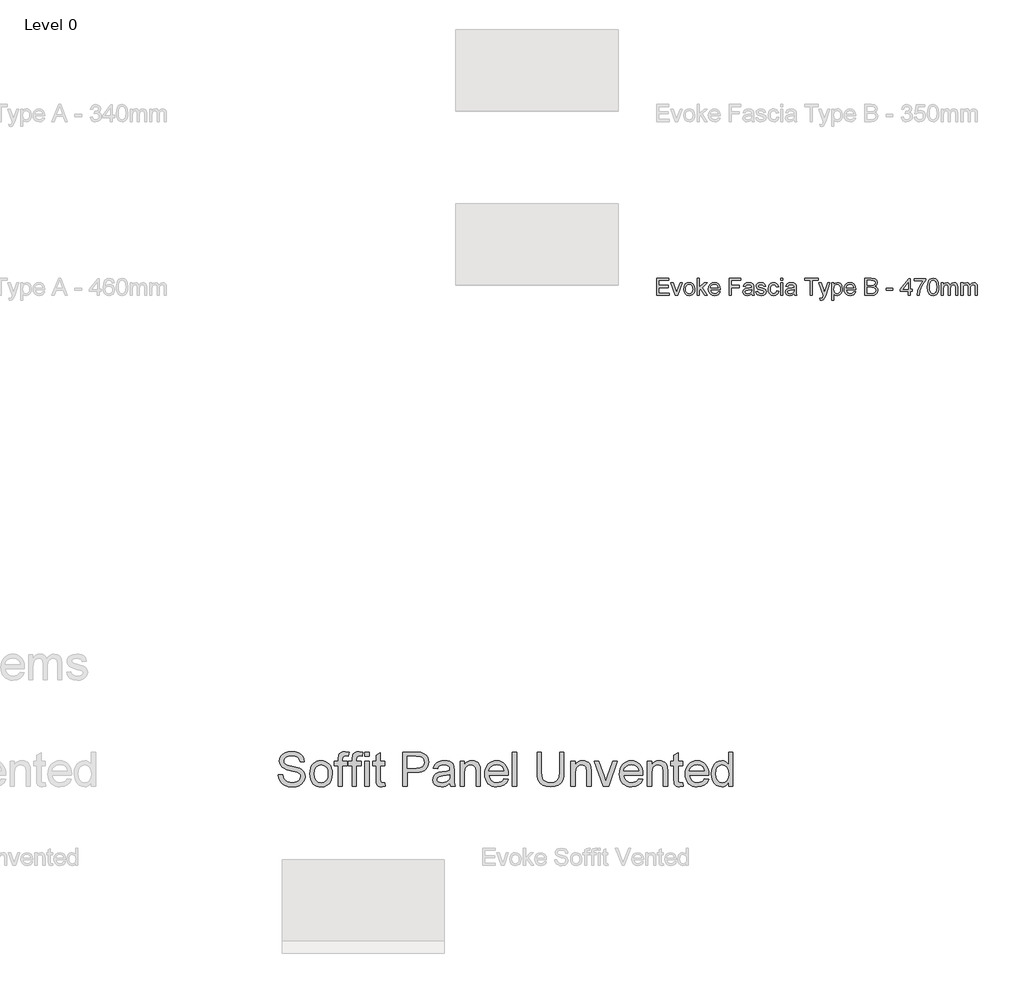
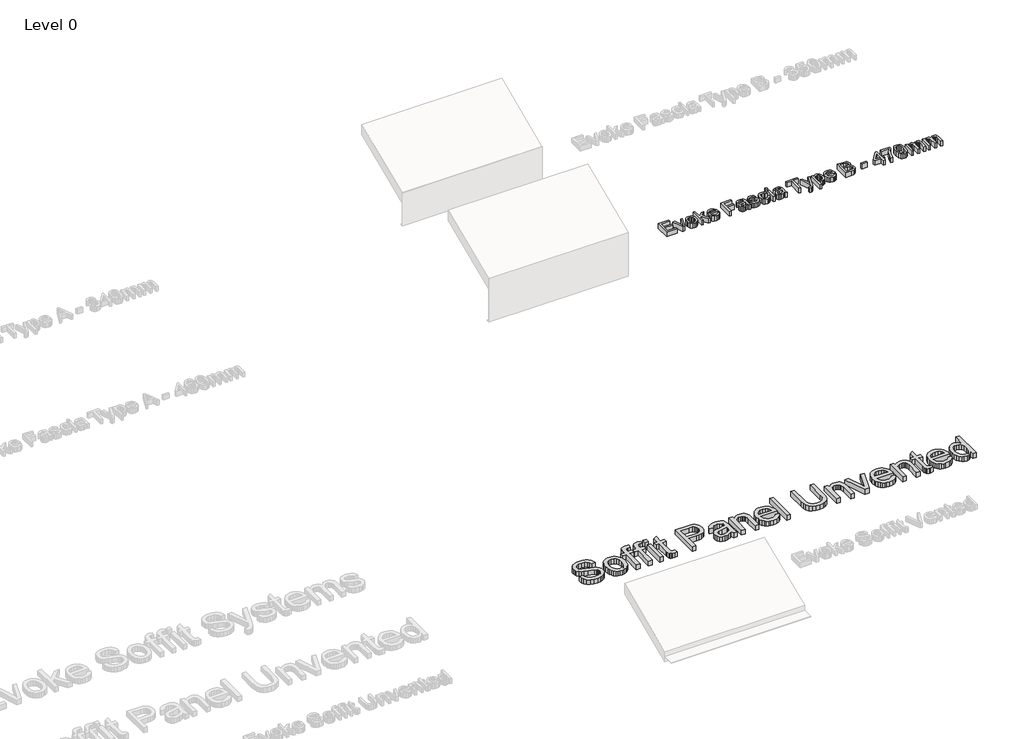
# One storey, part 4 of 13: 2 proxies.
"""IFC4 building model written with IfcOpenShell, lengths in millimetres."""

from ifc_helpers import new_model, si_unit, origin, origin_with_axes, place, context, project, spatial, polyline, outline, extrude, element, save

model = new_model("IFC4")

# Units and contexts
model_context = context("Model", 3, world=origin())
ifc_project = project(units=[si_unit("LENGTHUNIT", "METRE", prefix="MILLI")], contexts=[model_context])

# Site, building, storey
site = spatial("IfcSite", under=ifc_project)
building = spatial("IfcBuilding", under=site)
storey = spatial("IfcBuildingStorey", under=building, Name="Level 0", Elevation=0.0)

# Proxies
placement = place(None, origin())
element("IfcBuildingElementProxy", 1, Name="150mm Arial", ObjectType="150mm Arial", at=placement, inside=storey, context=model_context, shape_type="SweptSolid", body=[
    extrude(outline(polyline([(5568.7201043, -139.3317689), (5568.7201043, 8.3605388), (5674.8739504, 8.3605388), (5674.8739504, -10.1009997), (5587.1816427, -10.1009997), (5587.1816427, -53.9471535), (5670.2585658, -53.9471535), (5670.2585658, -72.408692), (5587.1816427, -72.408692), (5587.1816427, -120.8702305), (5677.1816427, -120.8702305), (5677.1816427, -139.3317689), (5568.7201043, -139.3317689)])), origin_with_axes(), (0.0, 0.0, 1.0), 50.0),
    extrude(outline(polyline([(5729.176835, -139.3317689), (5691.0277966, -30.8702305), (5710.5710658, -30.8702305), (5733.6840466, -95.846192), (5740.6431812, -117.6971535), (5747.458085, -97.0721535), (5770.7152966, -30.8702305), (5790.2585658, -30.8702305), (5752.5782774, -139.3317689), (5729.176835, -139.3317689)])), origin_with_axes(), (0.0, 0.0, 1.0), 50.0),
    extrude(outline(polyline([(5801.7970274, -85.1009997), (5805.7904168, -58.9501584), (5817.770585, -40.5697497), (5832.5722677, -31.564341), (5850.2946235, -28.5625382), (5869.6891548, -32.2178867), (5885.1804408, -43.1839324), (5895.3351884, -60.5952906), (5898.7201043, -83.5865766), (5897.22371, -102.237418), (5892.7345274, -116.4351343), (5885.3832653, -127.0676463), (5875.3006331, -135.0228747), (5863.3249721, -139.9853146), (5850.2946235, -141.6394612), (5830.6657173, -137.9976343), (5815.19246, -127.0721535), (5805.1458855, -109.2957112), (5801.7970274, -85.1009997)]), holes=[polyline([(5820.2585658, -85.064942), (5822.3949841, -101.7731752), (5828.8042389, -113.6767209), (5838.4496716, -120.8026223), (5850.2946235, -123.1779228), (5862.0854889, -120.7891007), (5871.7128927, -113.6226343), (5878.1221475, -101.5613362), (5880.2585658, -84.4880189), (5878.1086259, -68.2665646), (5871.6588062, -56.5252785), (5862.0178807, -49.3993771), (5850.2946235, -47.0240766), (5838.4496716, -49.3903627), (5828.8042389, -56.4892209), (5822.3949841, -68.3657233), (5820.2585658, -85.064942)])]), origin_with_axes(), (0.0, 0.0, 1.0), 50.0),
    extrude(outline(polyline([(5919.489335, -139.3317689), (5919.489335, 8.3605388), (5937.9508735, 8.3605388), (5937.9508735, -71.002442), (5979.3451043, -30.8702305), (6004.8739504, -30.8702305), (5962.974912, -71.5072497), (6007.1816427, -139.3317689), (5985.6191427, -139.3317689), (5949.7417389, -84.3437882), (5937.9508735, -95.7740766), (5937.9508735, -139.3317689), (5919.489335, -139.3317689)])), origin_with_axes(), (0.0, 0.0, 1.0), 50.0),
    extrude(outline(polyline([(6099.2729889, -107.0240766), (6117.3739504, -109.3317689), (6110.8520153, -122.970591), (6100.4448639, -133.1659035), (6086.3868711, -139.5210718), (6068.912412, -141.6394612), (6047.2507533, -137.9841127), (6030.583085, -127.018067), (6019.9550802, -109.4534636), (6016.412412, -86.002442), (6019.9911379, -61.7626584), (6030.7273158, -43.6346535), (6047.1696235, -32.330567), (6067.8667389, -28.5625382), (6087.919323, -32.3215526), (6103.94246, -43.5985959), (6114.4487701, -61.690543), (6117.9508735, -85.8942689), (6117.8427004, -90.8702305), (6034.8739504, -90.8702305), (6038.0695634, -104.689341), (6045.4929408, -114.8485959), (6056.2065826, -121.095591), (6069.2729889, -123.1779228), (6087.3739504, -119.3197497), (6099.2729889, -107.0240766)]), holes=[polyline([(6034.8739504, -72.408692), (6099.489335, -72.408692), (6096.9923399, -62.6550862), (6092.0975081, -55.6779228), (6081.334287, -49.1875382), (6067.7946235, -47.0240766), (6055.3502124, -48.7503386), (6045.0602485, -53.9291247), (6037.9073038, -62.0015406), (6034.8739504, -72.408692)])]), origin_with_axes(), (0.0, 0.0, 1.0), 50.0),
    extrude(outline(polyline([(6196.412412, -139.3317689), (6196.412412, 8.3605388), (6295.6431812, 8.3605388), (6295.6431812, -10.1009997), (6214.8739504, -10.1009997), (6214.8739504, -53.9471535), (6284.1047197, -53.9471535), (6284.1047197, -72.408692), (6214.8739504, -72.408692), (6214.8739504, -139.3317689), (6196.412412, -139.3317689)])), origin_with_axes(), (0.0, 0.0, 1.0), 50.0),
    extrude(outline(polyline([(6387.9508735, -125.4856151), (6370.0482293, -137.9976343), (6350.270585, -141.6394612), (6334.8423999, -139.4489564), (6323.4616908, -132.877442), (6316.4439624, -122.8984757), (6314.1047197, -110.4856151), (6317.6383735, -95.8822497), (6326.9232293, -85.2812882), (6339.849912, -79.2235959), (6355.8234697, -76.4471535), (6387.8427004, -70.1009997), (6387.9508735, -65.9904228), (6386.6798399, -57.7512401), (6382.8667389, -52.3606151), (6374.3390947, -48.3582112), (6362.458085, -47.0240766), (6343.7802004, -50.5757593), (6334.8739504, -63.1779228), (6316.412412, -60.8702305), (6324.3991908, -42.8413843), (6340.4809216, -32.2764805), (6364.8378927, -28.5625382), (6387.2116908, -31.8437882), (6399.849912, -40.0829709), (6405.5109697, -52.6130189), (6406.412412, -68.7668651), (6406.412412, -91.7356151), (6407.349912, -123.8089324), (6411.0277966, -139.3317689), (6392.5662581, -139.3317689), (6387.9508735, -125.4856151)]), holes=[polyline([(6387.9508735, -88.5625382), (6358.1672197, -94.2235959), (6342.2838062, -97.2163843), (6335.0902966, -102.0841728), (6332.5662581, -109.1875382), (6338.0650562, -119.1755189), (6354.2008735, -123.1779228), (6372.8787581, -118.7608555), (6384.9220274, -108.0697497), (6387.8427004, -93.7909035), (6387.9508735, -88.5625382)])]), origin_with_axes(), (0.0, 0.0, 1.0), 50.0),
    extrude(outline(polyline([(6424.8739504, -107.0240766), (6443.3354889, -104.7163843), (6446.2471475, -112.6130189), (6451.881162, -118.4183074), (6471.4604889, -123.1779228), (6490.2826043, -118.814942), (6496.412412, -108.5745574), (6490.2465466, -100.2812882), (6471.2441427, -95.0168651), (6443.443662, -85.9844132), (6431.3102485, -75.4375382), (6427.1816427, -60.5457112), (6430.4989504, -46.7897016), (6439.5494312, -36.2788843), (6451.28621, -30.8161439), (6467.1696235, -28.5625382), (6489.6335658, -32.1863362), (6503.912412, -41.9940285), (6510.2585658, -58.5625382), (6491.7970274, -60.8702305), (6484.8559216, -50.6839324), (6468.6119312, -47.0240766), (6450.943662, -50.5216728), (6445.6431812, -58.6707112), (6447.8427004, -64.0433074), (6454.7297197, -68.1178266), (6470.631162, -72.0481151), (6497.7285177, -80.7380189), (6510.3126524, -90.5817689), (6514.8739504, -106.627442), (6509.5193831, -124.2957112), (6494.068662, -137.1142209), (6471.208085, -141.6394612), (6452.5933014, -139.4579709), (6439.0085658, -132.9134997), (6429.9400562, -122.0781632), (6424.8739504, -107.0240766)])), origin_with_axes(), (0.0, 0.0, 1.0), 50.0),
    extrude(outline(polyline([(6604.8739504, -100.1009997), (6623.3354889, -102.408692), (6618.1882533, -118.8284636), (6608.5157774, -131.236817), (6595.2285177, -139.0388002), (6579.2369312, -141.6394612), (6559.5990105, -138.0111559), (6544.2429408, -127.1262401), (6534.3315826, -109.4624781), (6531.0277966, -85.4976343), (6536.6708254, -54.830567), (6543.7922197, -43.3326704), (6553.8703447, -35.1250382), (6565.9271355, -30.2031632), (6578.9845274, -28.5625382), (6594.5839865, -30.8161439), (6607.0554408, -37.5769612), (6616.0022557, -48.4844132), (6621.0277966, -63.1779228), (6602.5662581, -65.4856151), (6594.0025562, -51.6574901), (6579.1287581, -47.0240766), (6567.1981692, -49.3047257), (6557.7285177, -56.1466728), (6551.5491307, -67.9195093), (6549.489335, -84.9928266), (6551.5040586, -102.2960117), (6557.5482293, -114.1094132), (6566.8466067, -120.9107954), (6578.6239504, -123.1779228), (6588.1837461, -121.7626584), (6596.021787, -117.5168651), (6601.7234096, -110.3323699), (6604.8739504, -100.1009997)])), origin_with_axes(), (0.0, 0.0, 1.0), 50.0),
    extrude(outline(polyline([(6639.489335, -10.1009997), (6639.489335, 8.3605388), (6657.9508735, 8.3605388), (6657.9508735, -10.1009997), (6639.489335, -10.1009997)])), origin_with_axes(), (0.0, 0.0, 1.0), 50.0),
    extrude(outline(polyline([(6639.489335, -139.3317689), (6639.489335, -30.8702305), (6657.9508735, -30.8702305), (6657.9508735, -139.3317689), (6639.489335, -139.3317689)])), origin_with_axes(), (0.0, 0.0, 1.0), 50.0),
    extrude(outline(polyline([(6754.8739504, -125.4856151), (6736.9713062, -137.9976343), (6717.193662, -141.6394612), (6701.7654769, -139.4489564), (6690.3847677, -132.877442), (6683.3670394, -122.8984757), (6681.0277966, -110.4856151), (6684.5614504, -95.8822497), (6693.8463062, -85.2812882), (6706.7729889, -79.2235959), (6722.7465466, -76.4471535), (6754.7657774, -70.1009997), (6754.8739504, -65.9904228), (6753.6029168, -57.7512401), (6749.7898158, -52.3606151), (6741.2621716, -48.3582112), (6729.381162, -47.0240766), (6710.7032774, -50.5757593), (6701.7970274, -63.1779228), (6683.3354889, -60.8702305), (6691.3222677, -42.8413843), (6707.4039985, -32.2764805), (6731.7609697, -28.5625382), (6754.1347677, -31.8437882), (6766.7729889, -40.0829709), (6772.4340466, -52.6130189), (6773.3354889, -68.7668651), (6773.3354889, -91.7356151), (6774.2729889, -123.8089324), (6777.9508735, -139.3317689), (6759.489335, -139.3317689), (6754.8739504, -125.4856151)]), holes=[polyline([(6754.8739504, -88.5625382), (6725.0902966, -94.2235959), (6709.2068831, -97.2163843), (6702.0133735, -102.0841728), (6699.489335, -109.1875382), (6704.9881331, -119.1755189), (6721.1239504, -123.1779228), (6739.801835, -118.7608555), (6751.8451043, -108.0697497), (6754.7657774, -93.7909035), (6754.8739504, -88.5625382)])]), origin_with_axes(), (0.0, 0.0, 1.0), 50.0),
    extrude(outline(polyline([(6895.6431812, -139.3317689), (6895.6431812, -10.1009997), (6847.1816427, -10.1009997), (6847.1816427, 8.3605388), (6962.5662581, 8.3605388), (6962.5662581, -10.1009997), (6914.1047197, -10.1009997), (6914.1047197, -139.3317689), (6895.6431812, -139.3317689)])), origin_with_axes(), (0.0, 0.0, 1.0), 50.0),
    extrude(outline(polyline([(6981.0277966, -180.8702305), (6978.7201043, -163.0937882), (6988.0951043, -164.7163843), (6996.8571235, -162.6791247), (7002.2297197, -157.0000382), (7007.2777966, -143.4062882), (7008.7201043, -138.9351343), (6969.489335, -30.8702305), (6988.9604889, -30.8702305), (7009.7657774, -91.0865766), (7017.0133735, -115.1731151), (7024.2609697, -93.8990766), (7045.6431812, -30.8702305), (7064.9701043, -30.8702305), (7027.2177004, -141.9279228), (7017.4100081, -166.0144612), (7006.7008735, -179.0312882), (6992.3138543, -183.1779228), (6981.0277966, -180.8702305)])), origin_with_axes(), (0.0, 0.0, 1.0), 50.0),
    extrude(outline(polyline([(7080.2585658, -180.8702305), (7080.2585658, -30.8702305), (7098.7201043, -30.8702305), (7098.7201043, -48.971192), (7111.4845274, -33.6647016), (7128.7201043, -28.5625382), (7141.2050802, -30.3473939), (7152.1215466, -35.7019612), (7161.0097677, -44.3017209), (7167.4100081, -55.8221535), (7172.5662581, -84.2716728), (7171.1104288, -100.0604348), (7166.7429408, -114.1815285), (7159.6035177, -125.9183074), (7149.8318831, -134.5541247), (7138.451174, -139.8681271), (7126.4845274, -141.6394612), (7110.4208254, -136.8978747), (7098.7201043, -124.908692), (7098.7201043, -180.8702305), (7080.2585658, -180.8702305)]), holes=[polyline([(7098.7201043, -85.9663843), (7100.716799, -102.5168651), (7106.7068831, -114.0913843), (7115.5455249, -120.9062882), (7126.0878927, -123.1779228), (7136.8015346, -120.8251584), (7145.865537, -113.7668651), (7152.044924, -101.768668), (7154.1047197, -84.596192), (7152.0945033, -68.1358555), (7146.0638543, -56.3990766), (7137.2387341, -49.3678266), (7126.8451043, -47.0240766), (7116.4109096, -49.5165646), (7107.2477485, -56.9940285), (7100.8520153, -69.2220934), (7098.7201043, -85.9663843)])]), origin_with_axes(), (0.0, 0.0, 1.0), 50.0),
    extrude(outline(polyline([(7269.2729889, -107.0240766), (7287.3739504, -109.3317689), (7280.8520153, -122.970591), (7270.4448639, -133.1659035), (7256.3868711, -139.5210718), (7238.912412, -141.6394612), (7217.2507533, -137.9841127), (7200.583085, -127.018067), (7189.9550802, -109.4534636), (7186.412412, -86.002442), (7189.9911379, -61.7626584), (7200.7273158, -43.6346535), (7217.1696235, -32.330567), (7237.8667389, -28.5625382), (7257.919323, -32.3215526), (7273.94246, -43.5985959), (7284.4487701, -61.690543), (7287.9508735, -85.8942689), (7287.8427004, -90.8702305), (7204.8739504, -90.8702305), (7208.0695634, -104.689341), (7215.4929408, -114.8485959), (7226.2065826, -121.095591), (7239.2729889, -123.1779228), (7257.3739504, -119.3197497), (7269.2729889, -107.0240766)]), holes=[polyline([(7204.8739504, -72.408692), (7269.489335, -72.408692), (7266.9923399, -62.6550862), (7262.0975081, -55.6779228), (7251.334287, -49.1875382), (7237.7946235, -47.0240766), (7225.3502124, -48.7503386), (7215.0602485, -53.9291247), (7207.9073038, -62.0015406), (7204.8739504, -72.408692)])]), origin_with_axes(), (0.0, 0.0, 1.0), 50.0),
    extrude(outline(polyline([(7366.412412, -139.3317689), (7366.412412, 8.3605388), (7422.770585, 8.3605388), (7450.3727485, 4.0155868), (7459.6485899, -1.4967329), (7466.6708254, -9.3437882), (7472.5662581, -28.2380189), (7467.6083254, -45.4916247), (7452.6263543, -58.5625382), (7463.0875923, -64.0252785), (7470.81746, -72.3365766), (7475.5905971, -82.9465526), (7477.1816427, -95.3053266), (7472.8366908, -115.1550862), (7462.0734697, -129.2897016), (7446.0097677, -136.7897016), (7422.3378927, -139.3317689), (7366.412412, -139.3317689)]), holes=[polyline([(7384.8739504, -51.6394612), (7418.5878927, -51.6394612), (7438.2753927, -50.0529228), (7450.1203447, -43.2199901), (7454.1047197, -31.1947497), (7450.3907774, -19.1514805), (7439.7537581, -12.0300862), (7416.0277966, -10.1009997), (7384.8739504, -10.1009997), (7384.8739504, -51.6394612)]), polyline([(7384.8739504, -120.8702305), (7422.7345274, -120.8702305), (7436.4364504, -120.1490766), (7448.0289985, -116.1286439), (7455.709287, -107.9255189), (7458.7201043, -95.4856151), (7455.1864504, -81.1346535), (7443.7381331, -72.5709516), (7420.9316427, -70.1009997), (7384.8739504, -70.1009997), (7384.8739504, -120.8702305)])]), origin_with_axes(), (0.0, 0.0, 1.0), 50.0),
    extrude(outline(polyline([(7548.7201043, -95.4856151), (7548.7201043, -77.0240766), (7606.412412, -77.0240766), (7606.412412, -95.4856151), (7548.7201043, -95.4856151)])), origin_with_axes(), (0.0, 0.0, 1.0), 50.0),
    extrude(outline(polyline([(7740.2585658, -139.3317689), (7740.2585658, -104.7163843), (7673.3354889, -104.7163843), (7673.3354889, -86.2548459), (7744.8739504, 6.0528465), (7758.7201043, 6.0528465), (7758.7201043, -86.2548459), (7777.1816427, -86.2548459), (7777.1816427, -104.7163843), (7758.7201043, -104.7163843), (7758.7201043, -139.3317689), (7740.2585658, -139.3317689)]), holes=[polyline([(7740.2585658, -86.2548459), (7740.2585658, -29.2115766), (7696.051835, -86.2548459), (7740.2585658, -86.2548459)])]), origin_with_axes(), (0.0, 0.0, 1.0), 50.0),
    extrude(outline(polyline([(7793.3354889, -12.408692), (7793.3354889, 6.0528465), (7890.2585658, 6.0528465), (7890.2585658, -8.8750382), (7862.7645754, -48.5925862), (7841.724912, -99.1995574), (7834.8739504, -139.3317689), (7816.412412, -139.3317689), (7823.7501524, -97.6851343), (7843.8883735, -50.611817), (7871.7970274, -12.408692), (7793.3354889, -12.408692)])), origin_with_axes(), (0.0, 0.0, 1.0), 50.0),
    extrude(outline(polyline([(7906.412412, -66.6755189), (7907.7690826, -43.0351944), (7911.8390947, -24.1815285), (7918.5818831, -9.8260598), (7927.9568831, 0.3196734), (7940.0317028, 6.3503224), (7954.8739504, 8.3605388), (7976.4364504, 3.6009234), (7991.3282774, -10.1190285), (7999.9821235, -31.9699901), (8003.3354889, -66.6755189), (8001.9923399, -90.1806271), (7997.9628927, -108.9892209), (7991.2606692, -123.3582112), (7981.8991908, -133.5445093), (7969.7973278, -139.6157233), (7954.8739504, -141.6394612), (7935.6912581, -138.1238362), (7921.1239504, -127.5769612), (7910.0902966, -102.5979949), (7906.412412, -66.6755189)]), holes=[polyline([(7924.8739504, -66.6394612), (7927.037412, -95.6794252), (7933.5277966, -112.486817), (7943.1912581, -120.5051463), (7954.8739504, -123.1779228), (7966.5566427, -120.4961319), (7976.2201043, -112.4507593), (7982.7104889, -95.6343531), (7984.8739504, -66.6394612), (7982.7826043, -38.253043), (7976.5085658, -21.314942), (7966.8631331, -12.9044853), (7954.6576043, -10.1009997), (7943.1011139, -12.5709516), (7933.8162581, -19.9808074), (7927.1095274, -37.9735959), (7924.8739504, -66.6394612)])]), origin_with_axes(), (0.0, 0.0, 1.0), 50.0),
    extrude(outline(polyline([(8024.1047197, -139.3317689), (8024.1047197, -30.8702305), (8042.5662581, -30.8702305), (8042.5662581, -48.7187882), (8055.2585658, -34.0973939), (8073.3234697, -28.5625382), (8083.5908975, -29.9732954), (8091.8210658, -34.205567), (8101.989335, -50.0168651), (8116.3943831, -33.9261199), (8134.5854889, -28.5625382), (8148.4631932, -30.7936079), (8158.7261139, -37.486817), (8165.0677605, -48.822454), (8167.1816427, -64.9808074), (8167.1816427, -139.3317689), (8148.7201043, -139.3317689), (8148.7201043, -72.9134997), (8147.0073639, -57.4988362), (8140.8054408, -49.908692), (8130.2585658, -47.0240766), (8120.2570634, -48.8720334), (8112.1035177, -54.4159035), (8106.6813423, -64.034293), (8104.8739504, -78.1058074), (8104.8739504, -139.3317689), (8086.412412, -139.3317689), (8086.412412, -70.8582112), (8082.1395754, -52.9735959), (8076.5010538, -48.5114564), (8068.131162, -47.0240766), (8054.4652966, -50.9904228), (8045.3787581, -62.6009997), (8042.5662581, -84.6322497), (8042.5662581, -139.3317689), (8024.1047197, -139.3317689)])), origin_with_axes(), (0.0, 0.0, 1.0), 50.0),
    extrude(outline(polyline([(8194.8739504, -139.3317689), (8194.8739504, -30.8702305), (8213.3354889, -30.8702305), (8213.3354889, -48.7187882), (8226.0277966, -34.0973939), (8244.0927004, -28.5625382), (8254.3601283, -29.9732954), (8262.5902966, -34.205567), (8272.7585658, -50.0168651), (8287.1636139, -33.9261199), (8305.3547197, -28.5625382), (8319.232424, -30.7936079), (8329.4953447, -37.486817), (8335.8369913, -48.822454), (8337.9508735, -64.9808074), (8337.9508735, -139.3317689), (8319.489335, -139.3317689), (8319.489335, -72.9134997), (8317.7765947, -57.4988362), (8311.5746716, -49.908692), (8301.0277966, -47.0240766), (8291.0262942, -48.8720334), (8282.8727485, -54.4159035), (8277.450573, -64.034293), (8275.6431812, -78.1058074), (8275.6431812, -139.3317689), (8257.1816427, -139.3317689), (8257.1816427, -70.8582112), (8252.9088062, -52.9735959), (8247.2702846, -48.5114564), (8238.9003927, -47.0240766), (8225.2345274, -50.9904228), (8216.1479889, -62.6009997), (8213.3354889, -84.6322497), (8213.3354889, -139.3317689), (8194.8739504, -139.3317689)])), origin_with_axes(), (0.0, 0.0, 1.0), 50.0),
])
element("IfcBuildingElementProxy", 2, Name="300mm Arial", ObjectType="300mm Arial", at=placement, inside=storey, context=model_context, shape_type="SweptSolid", body=[
    extrude(outline(polyline([(2303.2608436, -4275.4624083), (2340.1839205, -4275.4624083), (2344.4206994, -4295.952192), (2352.082959, -4312.4215429), (2364.036084, -4325.4924564), (2381.145459, -4335.7869276), (2402.0589205, -4342.4666151), (2425.4243052, -4344.6931776), (2445.9952186, -4343.0074804), (2464.0060359, -4337.9503891), (2478.6003869, -4329.9455814), (2488.9219013, -4319.4167353), (2495.0607234, -4307.3283939), (2497.1069975, -4294.6451006), (2495.5745455, -4282.2863266), (2490.9771898, -4271.6042353), (2481.6382475, -4262.4906535), (2465.8810359, -4254.8374083), (2412.1190167, -4240.7388506), (2376.8275503, -4231.4089228), (2354.2464205, -4222.529716), (2335.8660119, -4210.107841), (2322.8401705, -4195.0537545), (2315.0787523, -4177.6919756), (2312.4916128, -4158.3470237), (2315.691733, -4136.7214228), (2325.2920936, -4116.5561583), (2341.0402907, -4099.4648122), (2362.6839205, -4087.060966), (2388.6634878, -4079.5158939), (2417.4194975, -4077.0008699), (2448.5733436, -4079.6330814), (2475.832959, -4087.529716), (2498.2247859, -4100.5285141), (2514.7752667, -4118.467216), (2525.2500263, -4140.2280333), (2529.4146898, -4164.6931776), (2492.4916128, -4164.6931776), (2485.7127667, -4142.6619276), (2471.5781513, -4126.7604853), (2449.4928148, -4117.1330814), (2418.8618052, -4113.9239468), (2387.5096417, -4117.0970237), (2366.0012282, -4126.6162545), (2353.5613244, -4140.6246679), (2349.4146898, -4157.2652929), (2352.3533917, -4171.4539949), (2361.1694975, -4182.8662545), (2382.0108436, -4193.0705814), (2421.457959, -4203.4912545), (2486.7944975, -4222.0249083), (2507.8431753, -4235.420341), (2522.5276705, -4251.9527929), (2531.1544734, -4271.4419756), (2534.0300744, -4293.7076006), (2530.7217811, -4316.4690189), (2520.7969013, -4337.8782737), (2504.661084, -4356.3037545), (2482.7199782, -4370.1138506), (2456.3347619, -4378.7406535), (2426.8666128, -4381.6162545), (2390.691733, -4378.5152929), (2360.9170936, -4369.2124083), (2337.2001465, -4353.6715429), (2319.1983436, -4331.8566391), (2307.6418532, -4305.2821199), (2303.2608436, -4275.4624083)])), origin_with_axes(), (0.0, 0.0, 1.0), 50.0),
    extrude(outline(polyline([(2575.5685359, -4268.5393314), (2577.5652306, -4240.4458819), (2583.5553148, -4216.2376487), (2593.5387883, -4195.9146319), (2607.5156513, -4179.4768314), (2621.5871657, -4168.9705213), (2637.1190167, -4161.4660141), (2654.1112042, -4156.9633098), (2672.5637282, -4155.4624083), (2692.9340708, -4157.2900826), (2711.3527907, -4162.7731054), (2727.8198881, -4171.9114768), (2742.3353628, -4184.7051968), (2754.1825684, -4200.721573), (2762.644858, -4219.5279131), (2767.7222318, -4241.1242172), (2769.4146898, -4265.5104853), (2766.4219013, -4302.8121679), (2757.4435359, -4331.2076006), (2742.7410119, -4352.4726247), (2722.5757475, -4368.3830814), (2698.6244253, -4378.3079612), (2672.5637282, -4381.6162545), (2651.8959097, -4379.795341), (2633.3059157, -4374.3326006), (2616.7937463, -4365.2280333), (2602.3594013, -4352.4816391), (2590.6383977, -4336.3097641), (2582.2662523, -4316.9287545), (2577.242965, -4294.3386103), (2575.5685359, -4268.5393314)]), holes=[polyline([(2612.4916128, -4268.467216), (2616.7644494, -4301.8836824), (2629.582959, -4325.6907737), (2648.8738244, -4339.9425766), (2672.5637282, -4344.6931776), (2696.145459, -4339.9155333), (2715.4002667, -4325.5826006), (2728.2187763, -4301.4600045), (2732.4916128, -4267.3133699), (2728.191733, -4234.8704612), (2715.2920936, -4211.3878891), (2696.0102427, -4197.1360862), (2672.5637282, -4192.3854853), (2648.8738244, -4197.1180574), (2629.582959, -4211.3157737), (2616.7644494, -4235.0687785), (2612.4916128, -4268.467216)])]), origin_with_axes(), (0.0, 0.0, 1.0), 50.0),
    extrude(outline(polyline([(2820.1839205, -4377.0008699), (2820.1839205, -4197.0008699), (2787.8762282, -4197.0008699), (2787.8762282, -4160.0777929), (2820.1839205, -4160.0777929), (2820.1839205, -4138.2268314), (2824.0781513, -4107.4335622), (2831.5060359, -4095.1559179), (2842.9723821, -4085.4383699), (2859.0180552, -4079.1102449), (2880.1839205, -4077.0008699), (2913.8618052, -4081.0393314), (2908.4531513, -4115.654716), (2887.1791128, -4113.9239468), (2873.1436561, -4115.4563987), (2863.9219013, -4120.0537545), (2858.8107234, -4128.8338026), (2857.1069975, -4142.9143314), (2857.1069975, -4160.0777929), (2898.645459, -4160.0777929), (2898.645459, -4197.0008699), (2857.1069975, -4197.0008699), (2857.1069975, -4377.0008699), (2820.1839205, -4377.0008699)])), origin_with_axes(), (0.0, 0.0, 1.0), 50.0),
    extrude(outline(polyline([(2940.1839205, -4377.0008699), (2940.1839205, -4197.0008699), (2907.8762282, -4197.0008699), (2907.8762282, -4160.0777929), (2940.1839205, -4160.0777929), (2940.1839205, -4138.2268314), (2944.0781513, -4107.4335622), (2951.5060359, -4095.1559179), (2962.9723821, -4085.4383699), (2979.0180552, -4079.1102449), (3000.1839205, -4077.0008699), (3033.8618052, -4081.0393314), (3028.4531513, -4115.654716), (3007.1791128, -4113.9239468), (2993.1436561, -4115.4563987), (2983.9219013, -4120.0537545), (2978.8107234, -4128.8338026), (2977.1069975, -4142.9143314), (2977.1069975, -4160.0777929), (3018.645459, -4160.0777929), (3018.645459, -4197.0008699), (2977.1069975, -4197.0008699), (2977.1069975, -4377.0008699), (2940.1839205, -4377.0008699)])), origin_with_axes(), (0.0, 0.0, 1.0), 50.0),
    extrude(outline(polyline([(3050.9531513, -4118.5393314), (3050.9531513, -4081.6162545), (3087.8762282, -4081.6162545), (3087.8762282, -4118.5393314), (3050.9531513, -4118.5393314)])), origin_with_axes(), (0.0, 0.0, 1.0), 50.0),
    extrude(outline(polyline([(3050.9531513, -4377.0008699), (3050.9531513, -4160.0777929), (3087.8762282, -4160.0777929), (3087.8762282, -4377.0008699), (3050.9531513, -4377.0008699)])), origin_with_axes(), (0.0, 0.0, 1.0), 50.0),
    extrude(outline(polyline([(3221.7223821, -4346.2076006), (3226.3377667, -4378.0826006), (3198.7175744, -4381.6162545), (3180.9952186, -4380.0838026), (3167.7800744, -4375.4864468), (3158.4411321, -4368.4011103), (3152.3473821, -4359.404716), (3148.9940167, -4343.9539949), (3147.8762282, -4317.5056776), (3147.8762282, -4197.0008699), (3120.1839205, -4197.0008699), (3120.1839205, -4160.0777929), (3147.8762282, -4160.0777929), (3147.8762282, -4107.3614468), (3184.7993052, -4085.654716), (3184.7993052, -4160.0777929), (3221.7223821, -4160.0777929), (3221.7223821, -4197.0008699), (3184.7993052, -4197.0008699), (3184.7993052, -4316.4239468), (3186.7464205, -4335.4624083), (3193.0565167, -4342.2051968), (3205.6406513, -4344.6931776), (3221.7223821, -4346.2076006)])), origin_with_axes(), (0.0, 0.0, 1.0), 50.0),
    extrude(outline(polyline([(3378.645459, -4377.0008699), (3378.645459, -4081.6162545), (3488.1166128, -4081.6162545), (3532.2512282, -4084.4287545), (3551.9297138, -4089.6841631), (3568.1286321, -4098.2388506), (3581.1725023, -4110.4804372), (3591.3858436, -4126.7965429), (3597.9844013, -4146.0423362), (3600.1839205, -4167.0729853), (3594.2434157, -4201.8866872), (3586.8177847, -4217.116555), (3576.4219013, -4230.8951006), (3562.149816, -4242.3163747), (3543.0955792, -4250.4744276), (3519.259191, -4255.3692593), (3490.6406513, -4257.0008699), (3415.5685359, -4257.0008699), (3415.5685359, -4377.0008699), (3378.645459, -4377.0008699)]), holes=[polyline([(3415.5685359, -4220.0777929), (3492.8041128, -4220.0777929), (3525.5444975, -4216.6883699), (3547.1791128, -4206.5201006), (3559.2404109, -4190.2039949), (3563.2608436, -4168.3710622), (3560.8900503, -4151.7845237), (3553.7776705, -4137.7941391), (3542.8071177, -4127.2652929), (3528.8618052, -4121.0633699), (3491.9387282, -4118.5393314), (3415.5685359, -4118.5393314), (3415.5685359, -4220.0777929)])]), origin_with_axes(), (0.0, 0.0, 1.0), 50.0),
    extrude(outline(polyline([(3784.7993052, -4349.3085622), (3767.1580792, -4364.4347641), (3748.9940167, -4374.3326006), (3729.8924542, -4379.795341), (3709.4387282, -4381.6162545), (3678.582358, -4377.2352449), (3655.8209398, -4364.092216), (3641.785483, -4344.1342833), (3637.1069975, -4319.3085622), (3638.8738244, -4304.0020718), (3644.1743052, -4290.1018314), (3652.3503869, -4278.2027929), (3662.7440167, -4268.8999083), (3688.5973821, -4256.7845237), (3720.5444975, -4251.2316391), (3758.2969013, -4245.3902929), (3784.582959, -4238.5393314), (3784.7993052, -4230.3181776), (3782.2572378, -4213.8398122), (3774.6310359, -4203.0585622), (3757.5757475, -4195.0537545), (3733.8137282, -4192.3854853), (3711.8185359, -4194.1613266), (3696.457959, -4199.4888506), (3685.9831994, -4209.3416151), (3678.645459, -4224.6931776), (3641.7223821, -4220.0777929), (3648.1316369, -4199.8854853), (3657.6959398, -4184.0201006), (3671.3077186, -4171.8866872), (3689.8594013, -4162.8902929), (3712.5487042, -4157.3193795), (3738.5733436, -4155.4624083), (3763.5342811, -4157.1030333), (3783.3209398, -4162.0249083), (3798.23981, -4169.4257497), (3808.5973821, -4178.5032737), (3815.4663725, -4189.7262304), (3819.9194975, -4203.5633699), (3821.7223821, -4235.8710622), (3821.7223821, -4281.8085622), (3823.5973821, -4345.9551968), (3830.9531513, -4377.0008699), (3794.0300744, -4377.0008699), (3784.7993052, -4349.3085622)]), holes=[polyline([(3784.7993052, -4275.4624083), (3725.2319975, -4286.7845237), (3693.4651705, -4292.7701006), (3679.0781513, -4302.5056776), (3674.0300744, -4316.7124083), (3676.7794734, -4327.6919756), (3685.0276705, -4336.6883699), (3698.5943773, -4342.6919756), (3717.2993052, -4344.6931776), (3737.1310359, -4342.4846439), (3754.6550744, -4335.8590429), (3768.8618052, -4326.0964228), (3778.7416128, -4314.4768314), (3783.1226225, -4302.5056776), (3784.582959, -4285.9191391), (3784.7993052, -4275.4624083)])]), origin_with_axes(), (0.0, 0.0, 1.0), 50.0),
    extrude(outline(polyline([(3872.4916128, -4377.0008699), (3872.4916128, -4160.0777929), (3909.4146898, -4160.0777929), (3909.4146898, -4190.3662545), (3922.2422138, -4175.0958218), (3937.6478628, -4164.1883699), (3955.6316369, -4157.6438987), (3976.1935359, -4155.4624083), (3994.3936561, -4157.2202208), (4011.0613244, -4162.4936583), (4024.9615648, -4170.6246679), (4034.8594013, -4180.9551968), (4045.9291128, -4208.1066391), (4047.8762282, -4243.8037545), (4047.8762282, -4377.0008699), (4010.9531513, -4377.0008699), (4010.9531513, -4248.779716), (4006.6983436, -4216.1114468), (4000.8119253, -4206.3848843), (3991.6622859, -4198.8398122), (3979.9345215, -4193.999067), (3966.3137282, -4192.3854853), (3944.6881273, -4196.0092833), (3926.2536321, -4206.8806776), (3918.8865948, -4215.7553771), (3913.6244253, -4227.8842833), (3909.4146898, -4261.904716), (3909.4146898, -4377.0008699), (3872.4916128, -4377.0008699)])), origin_with_axes(), (0.0, 0.0, 1.0), 50.0),
    extrude(outline(polyline([(4250.520459, -4312.3854853), (4286.7223821, -4317.0008699), (4273.6785119, -4344.2785141), (4252.864209, -4364.6691391), (4224.7482234, -4377.3794756), (4189.7993052, -4381.6162545), (4166.8891489, -4379.7885802), (4146.4759878, -4374.3055574), (4128.559822, -4365.167186), (4113.1406513, -4352.373466), (4100.7413124, -4336.2804672), (4091.8846417, -4317.2442593), (4086.5706393, -4295.2648422), (4084.7993052, -4270.342216), (4086.5886681, -4244.5744877), (4091.9567571, -4221.8626487), (4100.903572, -4202.2066992), (4113.4291128, -4185.6066391), (4128.8077186, -4172.4185381), (4146.3137282, -4162.998466), (4165.9471417, -4157.3464228), (4187.707959, -4155.4624083), (4208.7679049, -4157.3419155), (4227.8131273, -4162.9804372), (4244.8436261, -4172.3779732), (4259.8594013, -4185.5345237), (4272.1167631, -4202.0985261), (4280.8720215, -4221.7184179), (4286.1251766, -4244.3941992), (4287.8762282, -4270.1258699), (4287.6598821, -4280.0777929), (4121.7223821, -4280.0777929), (4128.113608, -4307.7160141), (4142.9603628, -4328.0345237), (4164.3876465, -4340.5285141), (4190.520459, -4344.6931776), (4210.1719013, -4342.764091), (4226.7223821, -4336.9768314), (4240.1719013, -4326.9708218), (4250.520459, -4312.3854853)]), holes=[polyline([(4121.7223821, -4243.154716), (4250.9531513, -4243.154716), (4245.9591609, -4223.6475045), (4236.1694975, -4209.6931776), (4214.6430552, -4196.7124083), (4187.5637282, -4192.3854853), (4162.6749061, -4195.8380093), (4142.0949782, -4206.1955814), (4127.7890888, -4222.3404131), (4121.7223821, -4243.154716)])]), origin_with_axes(), (0.0, 0.0, 1.0), 50.0),
    extrude(outline(polyline([(4324.7993052, -4377.0008699), (4324.7993052, -4081.6162545), (4361.7223821, -4081.6162545), (4361.7223821, -4377.0008699), (4324.7993052, -4377.0008699)])), origin_with_axes(), (0.0, 0.0, 1.0), 50.0),
    extrude(outline(polyline([(4730.9531513, -4081.6162545), (4767.8762282, -4081.6162545), (4767.8762282, -4252.0249083), (4765.3702186, -4291.9317593), (4757.8521898, -4322.6619276), (4743.8077186, -4346.3698603), (4721.7223821, -4365.2100045), (4691.5420936, -4377.514692), (4653.2127667, -4381.6162545), (4615.7217811, -4378.0465429), (4585.7488244, -4367.3374083), (4563.2848821, -4349.858442), (4548.3209398, -4325.9792353), (4539.910483, -4293.9509901), (4537.1069975, -4252.0249083), (4537.1069975, -4081.6162545), (4574.0300744, -4081.6162545), (4574.0300744, -4250.7268314), (4575.8509878, -4283.9089228), (4581.3137282, -4307.0128891), (4591.2115648, -4323.0134901), (4606.3377667, -4334.8854853), (4626.0613244, -4342.2412545), (4649.7512282, -4344.6931776), (4687.3053148, -4339.8434179), (4701.3633076, -4333.7812184), (4712.2752667, -4325.2941391), (4720.4468412, -4313.3590429), (4726.2836802, -4296.9527929), (4730.9531513, -4250.7268314), (4730.9531513, -4081.6162545)])), origin_with_axes(), (0.0, 0.0, 1.0), 50.0),
    extrude(outline(polyline([(4827.8762282, -4377.0008699), (4827.8762282, -4160.0777929), (4864.7993052, -4160.0777929), (4864.7993052, -4190.3662545), (4877.6268292, -4175.0958218), (4893.0324782, -4164.1883699), (4911.0162523, -4157.6438987), (4931.5781513, -4155.4624083), (4949.7782715, -4157.2202208), (4966.4459398, -4162.4936583), (4980.3461802, -4170.6246679), (4990.2440167, -4180.9551968), (5001.3137282, -4208.1066391), (5003.2608436, -4243.8037545), (5003.2608436, -4377.0008699), (4966.3377667, -4377.0008699), (4966.3377667, -4248.779716), (4962.082959, -4216.1114468), (4956.1965407, -4206.3848843), (4947.0469013, -4198.8398122), (4935.3191369, -4193.999067), (4921.6983436, -4192.3854853), (4900.0727427, -4196.0092833), (4881.6382475, -4206.8806776), (4874.2712102, -4215.7553771), (4869.0090407, -4227.8842833), (4864.7993052, -4261.904716), (4864.7993052, -4377.0008699), (4827.8762282, -4377.0008699)])), origin_with_axes(), (0.0, 0.0, 1.0), 50.0),
    extrude(outline(polyline([(5107.2512282, -4377.0008699), (5030.9531513, -4160.0777929), (5070.0396898, -4160.0777929), (5116.2656513, -4290.029716), (5130.1839205, -4333.7316391), (5143.8137282, -4292.4816391), (5190.3281513, -4160.0777929), (5229.4146898, -4160.0777929), (5154.0541128, -4377.0008699), (5107.2512282, -4377.0008699)])), origin_with_axes(), (0.0, 0.0, 1.0), 50.0),
    extrude(outline(polyline([(5413.5973821, -4312.3854853), (5449.7993052, -4317.0008699), (5436.755435, -4344.2785141), (5415.9411321, -4364.6691391), (5387.8251465, -4377.3794756), (5352.8762282, -4381.6162545), (5329.966072, -4379.7885802), (5309.5529109, -4374.3055574), (5291.6367451, -4365.167186), (5276.2175744, -4352.373466), (5263.8182354, -4336.2804672), (5254.9615648, -4317.2442593), (5249.6475624, -4295.2648422), (5247.8762282, -4270.342216), (5249.6655912, -4244.5744877), (5255.0336802, -4221.8626487), (5263.9804951, -4202.2066992), (5276.5060359, -4185.6066391), (5291.8846417, -4172.4185381), (5309.3906513, -4162.998466), (5329.0240648, -4157.3464228), (5350.7848821, -4155.4624083), (5371.844828, -4157.3419155), (5390.8900503, -4162.9804372), (5407.9205491, -4172.3779732), (5422.9363244, -4185.5345237), (5435.1936862, -4202.0985261), (5443.9489446, -4221.7184179), (5449.2020996, -4244.3941992), (5450.9531513, -4270.1258699), (5450.7368052, -4280.0777929), (5284.7993052, -4280.0777929), (5291.1905311, -4307.7160141), (5306.0372859, -4328.0345237), (5327.4645696, -4340.5285141), (5353.5973821, -4344.6931776), (5373.2488244, -4342.764091), (5389.7993052, -4336.9768314), (5403.2488244, -4326.9708218), (5413.5973821, -4312.3854853)]), holes=[polyline([(5284.7993052, -4243.154716), (5414.0300744, -4243.154716), (5409.036084, -4223.6475045), (5399.2464205, -4209.6931776), (5377.7199782, -4196.7124083), (5350.6406513, -4192.3854853), (5325.7518292, -4195.8380093), (5305.1719013, -4206.1955814), (5290.8660119, -4222.3404131), (5284.7993052, -4243.154716)])]), origin_with_axes(), (0.0, 0.0, 1.0), 50.0),
    extrude(outline(polyline([(5487.8762282, -4377.0008699), (5487.8762282, -4160.0777929), (5524.7993052, -4160.0777929), (5524.7993052, -4190.3662545), (5537.6268292, -4175.0958218), (5553.0324782, -4164.1883699), (5571.0162523, -4157.6438987), (5591.5781513, -4155.4624083), (5609.7782715, -4157.2202208), (5626.4459398, -4162.4936583), (5640.3461802, -4170.6246679), (5650.2440167, -4180.9551968), (5661.3137282, -4208.1066391), (5663.2608436, -4243.8037545), (5663.2608436, -4377.0008699), (5626.3377667, -4377.0008699), (5626.3377667, -4248.779716), (5622.082959, -4216.1114468), (5616.1965407, -4206.3848843), (5607.0469013, -4198.8398122), (5595.3191369, -4193.999067), (5581.6983436, -4192.3854853), (5560.0727427, -4196.0092833), (5541.6382475, -4206.8806776), (5534.2712102, -4215.7553771), (5529.0090407, -4227.8842833), (5524.7993052, -4261.904716), (5524.7993052, -4377.0008699), (5487.8762282, -4377.0008699)])), origin_with_axes(), (0.0, 0.0, 1.0), 50.0),
    extrude(outline(polyline([(5792.4916128, -4346.2076006), (5797.1069975, -4378.0826006), (5769.4868052, -4381.6162545), (5751.7644494, -4380.0838026), (5738.5493052, -4375.4864468), (5729.2103628, -4368.4011103), (5723.1166128, -4359.404716), (5719.7632475, -4343.9539949), (5718.645459, -4317.5056776), (5718.645459, -4197.0008699), (5690.9531513, -4197.0008699), (5690.9531513, -4160.0777929), (5718.645459, -4160.0777929), (5718.645459, -4107.3614468), (5755.5685359, -4085.654716), (5755.5685359, -4160.0777929), (5792.4916128, -4160.0777929), (5792.4916128, -4197.0008699), (5755.5685359, -4197.0008699), (5755.5685359, -4316.4239468), (5757.5156513, -4335.4624083), (5763.8257475, -4342.2051968), (5776.4098821, -4344.6931776), (5792.4916128, -4346.2076006)])), origin_with_axes(), (0.0, 0.0, 1.0), 50.0),
    extrude(outline(polyline([(5981.2896898, -4312.3854853), (6017.4916128, -4317.0008699), (6004.4477427, -4344.2785141), (5983.6334398, -4364.6691391), (5955.5174542, -4377.3794756), (5920.5685359, -4381.6162545), (5897.6583797, -4379.7885802), (5877.2452186, -4374.3055574), (5859.3290528, -4365.167186), (5843.9098821, -4352.373466), (5831.5105431, -4336.2804672), (5822.6538725, -4317.2442593), (5817.3398701, -4295.2648422), (5815.5685359, -4270.342216), (5817.3578989, -4244.5744877), (5822.7259878, -4221.8626487), (5831.6728028, -4202.2066992), (5844.1983436, -4185.6066391), (5859.5769494, -4172.4185381), (5877.082959, -4162.998466), (5896.7163725, -4157.3464228), (5918.4771898, -4155.4624083), (5939.5371357, -4157.3419155), (5958.582358, -4162.9804372), (5975.6128568, -4172.3779732), (5990.6286321, -4185.5345237), (6002.8859939, -4202.0985261), (6011.6412523, -4221.7184179), (6016.8944073, -4244.3941992), (6018.645459, -4270.1258699), (6018.4291128, -4280.0777929), (5852.4916128, -4280.0777929), (5858.8828388, -4307.7160141), (5873.7295936, -4328.0345237), (5895.1568773, -4340.5285141), (5921.2896898, -4344.6931776), (5940.9411321, -4342.764091), (5957.4916128, -4336.9768314), (5970.9411321, -4326.9708218), (5981.2896898, -4312.3854853)]), holes=[polyline([(5852.4916128, -4243.154716), (5981.7223821, -4243.154716), (5976.7283917, -4223.6475045), (5966.9387282, -4209.6931776), (5945.4122859, -4196.7124083), (5918.332959, -4192.3854853), (5893.4441369, -4195.8380093), (5872.864209, -4206.1955814), (5858.5583196, -4222.3404131), (5852.4916128, -4243.154716)])]), origin_with_axes(), (0.0, 0.0, 1.0), 50.0),
    extrude(outline(polyline([(6189.4146898, -4377.0008699), (6189.4146898, -4342.1691391), (6178.3675143, -4359.4272521), (6164.9856032, -4371.7544756), (6149.2689566, -4379.1508098), (6131.2175744, -4381.6162545), (6107.3473821, -4378.0465429), (6085.4964205, -4367.3374083), (6066.9988244, -4350.2370478), (6053.1887282, -4327.4936583), (6044.5889686, -4300.0267112), (6041.7223821, -4268.7556776), (6044.363608, -4237.8722641), (6052.2872859, -4209.9816391), (6065.4844013, -4186.670341), (6083.9459398, -4169.5249083), (6106.2746657, -4158.9780333), (6131.0733436, -4155.4624083), (6149.1382475, -4157.9774324), (6165.1118052, -4165.5225045), (6178.6514686, -4177.0880093), (6189.4146898, -4191.6643314), (6189.4146898, -4081.6162545), (6226.3377667, -4081.6162545), (6226.3377667, -4377.0008699), (6189.4146898, -4377.0008699)]), holes=[polyline([(6078.645459, -4268.6114468), (6082.8101225, -4302.0098843), (6095.3041128, -4325.7628891), (6113.4591609, -4339.9606054), (6134.6069975, -4344.6931776), (6155.7458196, -4340.1769516), (6173.4411321, -4326.6282737), (6185.4213003, -4303.7947401), (6189.4146898, -4271.4239468), (6185.349185, -4236.0333218), (6173.1526705, -4211.4960622), (6155.0066369, -4197.1631295), (6133.0925744, -4192.3854853), (6111.7283917, -4196.9738266), (6094.2223821, -4210.7388506), (6082.5396898, -4234.3836824), (6078.645459, -4268.6114468)])]), origin_with_axes(), (0.0, 0.0, 1.0), 50.0),
])

save(model, "model.ifc")
